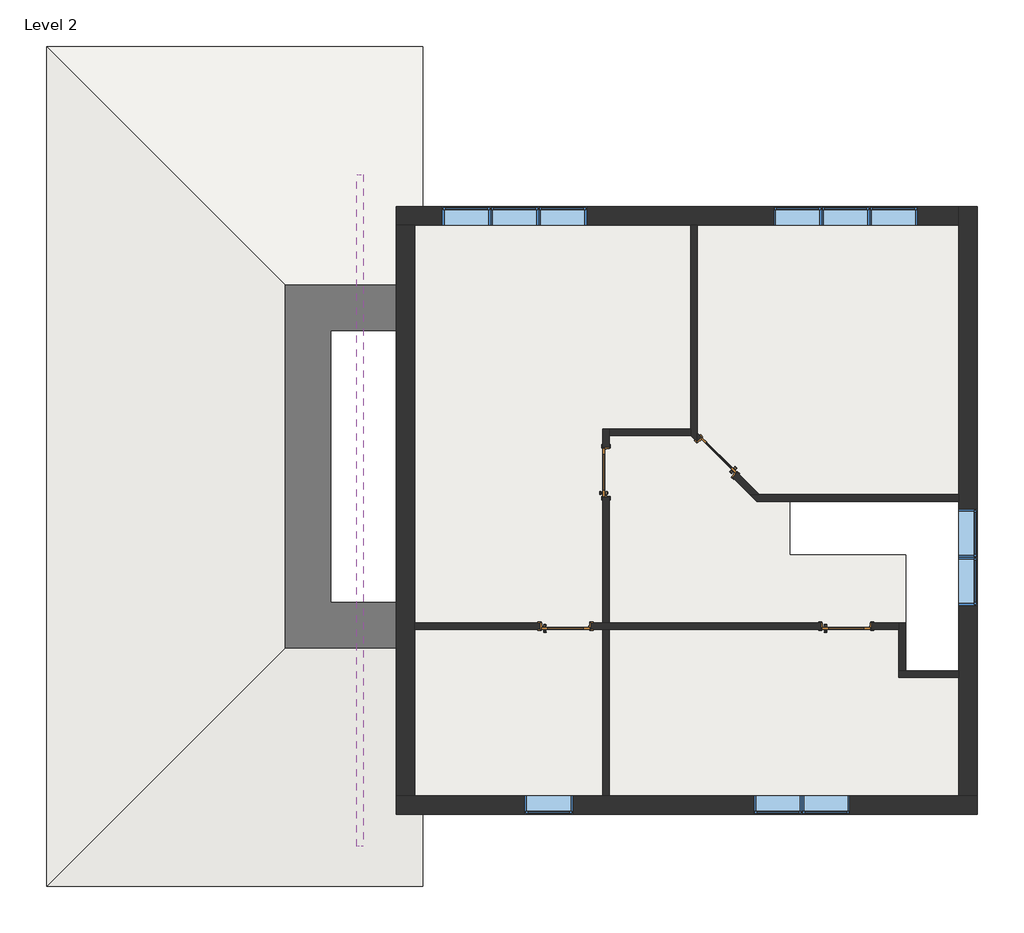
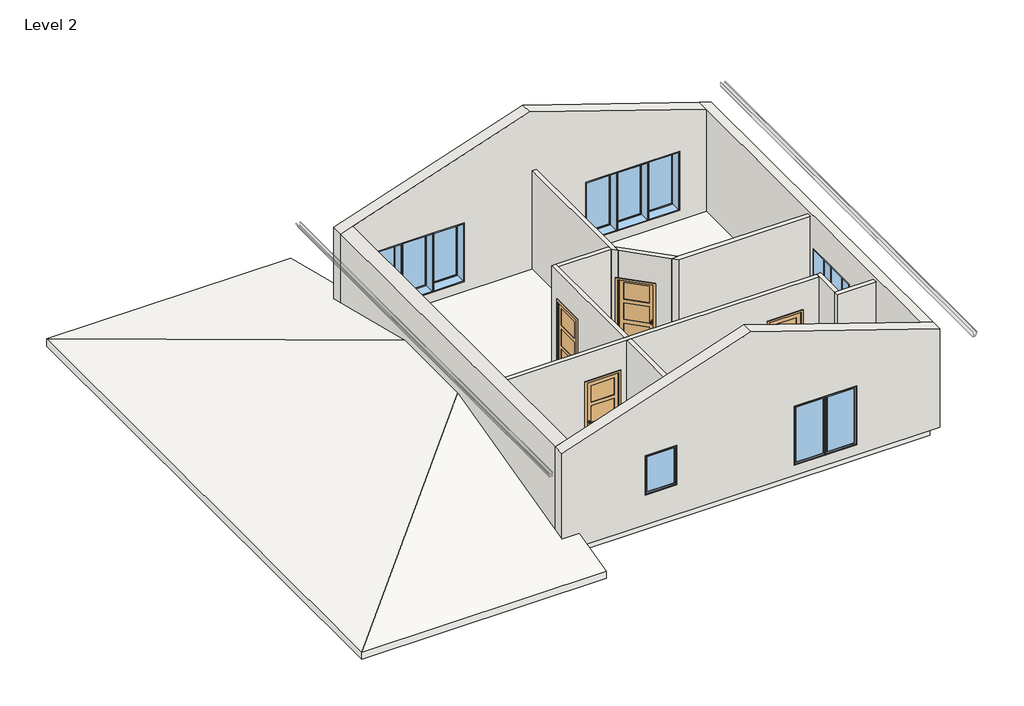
# One storey, incomplete: 12 walls, 11 windows, 4 doors, 1 beam, 1 pipe segment, 1 roof, 1 slab.
"""IFC4 building model written with IfcOpenShell, lengths in millimetres."""

from ifc_helpers import new_model, si_unit, frame, origin, place, context, project, spatial, polyline, outline, extrude, faceted_brep, transform, mapped, element, save
from components import w_shapes_w12x40_cbf18cdb, door_074fb280, door_78a51fc2, window_15c49d37, window_145f8bd4, window_9c0dbd08

model = new_model("IFC4")

# Units and contexts
model_context = context("Model", 3, world=origin())
ifc_project = project(units=[si_unit("LENGTHUNIT", "METRE", prefix="MILLI")], contexts=[model_context])

# Site, building, storey
site = spatial("IfcSite", under=ifc_project)
building = spatial("IfcBuilding", under=site)
storey = spatial("IfcBuildingStorey", under=building, Name="Level 2", Elevation=3048.0)

# Beam
placement = place(None, origin())
w_shapes_w12x40_shape = w_shapes_w12x40_cbf18cdb(model_context)
element("IfcBeam", 1, ObjectType="W Shapes : W12X40", at=placement, inside=storey, context=model_context, shape_type="MappedRepresentation", body=[
    mapped(w_shapes_w12x40_shape, transform((-2721.6271335, -19.4979882, 2896.87), x_axis=(0.0, -1.0, 0.0), y_axis=(1.0, 0.0, 0.0), z_axis=(0.0, 0.0, 1.0))),
])

# Doors
door_shape = door_074fb280(model_context)
element("IfcDoor", 2, ObjectType="Door-Interior-Single-3_Panel_Vert-Wood : 36\" x 84\"", at=placement, inside=storey, context=model_context, shape_type="MappedRepresentation", body=[
    mapped(door_shape, transform((1096.3103665, 791.0949196, 3048.0), x_axis=(0.0, 1.0, 0.0), y_axis=(-1.0, 0.0, 0.0), z_axis=(0.0, 0.0, 1.0))),
])
door_2_shape = door_78a51fc2(model_context)
element("IfcDoor", 3, ObjectType="Door-Interior-Single-3_Panel_Vert-Wood : 36\" x 84\"", at=placement, inside=storey, context=model_context, shape_type="MappedRepresentation", body=[
    mapped(door_2_shape, transform((3213.430546, 1082.8424294, 3048.0), x_axis=(-0.7071067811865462, 0.7071067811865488, 0.0), y_axis=(-0.7071067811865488, -0.7071067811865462, 0.0), z_axis=(0.0, 0.0, 1.0))),
])
element("IfcDoor", 4, ObjectType="Door-Interior-Single-3_Panel_Vert-Wood : 36\" x 84\"", at=placement, inside=storey, context=model_context, shape_type="MappedRepresentation", body=[
    mapped(door_2_shape, transform((5671.4853665, -2141.1917382, 3048.0), x_axis=(1.0, 0.0, 0.0), y_axis=(0.0, 1.0, 0.0), z_axis=(0.0, 0.0, 1.0))),
])
element("IfcDoor", 5, ObjectType="Door-Interior-Single-3_Panel_Vert-Wood : 36\" x 84\"", at=placement, inside=storey, context=model_context, shape_type="MappedRepresentation", body=[
    mapped(door_2_shape, transform((326.3728665, -2141.1917382, 3048.0), x_axis=(1.0, 0.0, 0.0), y_axis=(0.0, 1.0, 0.0), z_axis=(0.0, 0.0, 1.0))),
])

# Pipe segment
element("IfcPipeSegment", 6, ObjectType="Gutter - Bevel 5\" x 5\"", at=placement, inside=storey, context=model_context, shape_type="SweptSolid", body=[
    extrude(outline(polyline([(5990.1196059, -3526.4896335), (6117.0318384, -3526.4896335), (6117.0318384, -3529.6646335), (5993.2946059, -3529.6646335), (5993.2946059, -3600.3273362), (6094.8068384, -3638.4273362), (6094.8068384, -3650.3146335), (6101.1568384, -3650.3146335), (6101.1568384, -3640.7896335), (6104.3318384, -3640.7896335), (6104.3318384, -3653.4896335), (6091.6318384, -3653.4896335), (6091.6318384, -3640.7896335), (5990.1196059, -3602.6896335), (5990.1196059, -3526.4896335)])), frame((0.0, -6338.5417382, 0.0), z_axis=(0.0, 1.0, 0.0), x_axis=(0.0, 0.0, 1.0)), (0.0, 0.0, 1.0), 12803.1875),
    extrude(outline(polyline([(5990.1196059, 8798.8603665), (5990.1196059, 8875.0603665), (6091.6318384, 8913.1603665), (6091.6318384, 8925.8603665), (6104.3318384, 8925.8603665), (6104.3318384, 8913.1603665), (6101.1568384, 8913.1603665), (6101.1568384, 8922.6853665), (6094.8068384, 8922.6853665), (6094.8068384, 8910.7980692), (5993.2946059, 8872.6980692), (5993.2946059, 8802.0353665), (6117.0318384, 8802.0353665), (6117.0318384, 8798.8603665), (5990.1196059, 8798.8603665)])), frame((0.0, -6338.5417382, 0.0), z_axis=(0.0, 1.0, 0.0), x_axis=(0.0, 0.0, 1.0)), (0.0, 0.0, 1.0), 12803.1875),
])

# Roof
element("IfcRoof", 7, ObjectType="Wood Rafter 8\" - Asphalt Shingle - Insulated", at=placement, inside=storey, context=model_context, shape_type="Brep", body=[
    faceted_brep([(-9555.8146335, 8903.0457618, 2895.6), (-2897.8396335, 2245.0707618, 4560.09375), (-2897.8396335, -440.9792382, 4560.09375), (-9555.8146335, -7098.9542382, 2895.6), (-2393.0146335, 8903.0457618, 2895.6), (-2393.0146335, 5502.6207618, 3745.70625), (-2897.8396335, 5502.6207618, 3745.70625), (-2897.8396335, -5376.5167382, 3326.209375), (-2393.0146335, -5376.5167382, 3326.209375), (-2393.0146335, -7098.9542382, 2895.6), (-9555.8146335, 8903.0457618, 3114.8719111), (-9555.8146335, -7098.9542382, 3114.8719111), (-2897.8396335, -440.9792382, 4779.3656611), (-2897.8396335, 2245.0707618, 4779.3656611), (-2393.0146335, 8903.0457618, 3114.8719111), (-2897.8396335, 5502.6207618, 3964.9781611), (-2393.0146335, 5502.6207618, 3964.9781611), (-2393.0146335, -7098.9542382, 3114.8719111), (-2393.0146335, -5376.5167382, 3545.4812861), (-2897.8396335, -5376.5167382, 3545.4812861)], [[[0, 1, 2, 3]], [[0, 4, 5, 6, 1]], [[2, 7, 8, 9, 3]], [[10, 11, 12, 13]], [[14, 10, 13, 15, 16]], [[17, 18, 19, 12, 11]], [[0, 10, 14, 4]], [[3, 11, 10, 0]], [[9, 17, 11, 3]], [[18, 17, 9, 8]], [[14, 16, 5, 4]], [[15, 13, 12, 19, 7, 2, 1, 6]], [[18, 8, 7, 19]], [[5, 16, 15, 6]]]),
])

# Slab
element("IfcSlab", 8, ObjectType="Generic - 12\"", at=placement, inside=storey, context=model_context, shape_type="Brep", body=[
    faceted_brep([(-2770.8396335, -5541.6167382, 2743.2), (-2770.8396335, 5667.7207618, 2743.2), (-2545.4146335, 5667.7207618, 2743.2), (7982.8853665, 5667.7207618, 2743.2), (7982.8853665, 5502.6207618, 2743.2), (7982.8853665, 236.8832618, 2743.2), (7817.7853665, 236.8832618, 2743.2), (4591.9853665, 236.8832618, 2743.2), (4591.9853665, -779.1167382, 2743.2), (6801.7853665, -779.1167382, 2743.2), (6801.7853665, -2988.9167382, 2743.2), (7817.7853665, -2988.9167382, 2743.2), (7982.8853665, -2988.9167382, 2743.2), (7982.8853665, -5541.6167382, 2743.2), (7817.7853665, -5541.6167382, 2743.2), (-2545.4146335, -5541.6167382, 2743.2), (-2770.8396335, -5541.6167382, 3048.0), (-2545.4146335, -5541.6167382, 3048.0), (7817.7853665, -5541.6167382, 3048.0), (7982.8853665, -5541.6167382, 3048.0), (7982.8853665, -2988.9167382, 3048.0), (7817.7853665, -2988.9167382, 3048.0), (6801.7853665, -2988.9167382, 3048.0), (6801.7853665, -779.1167382, 3048.0), (4591.9853665, -779.1167382, 3048.0), (4591.9853665, 236.8832618, 3048.0), (7817.7853665, 236.8832618, 3048.0), (7982.8853665, 236.8832618, 3048.0), (7982.8853665, 5502.6207618, 3048.0), (7982.8853665, 5667.7207618, 3048.0), (-2545.4146335, 5667.7207618, 3048.0), (-2770.8396335, 5667.7207618, 3048.0)], [[[0, 1, 2, 3, 4, 5, 6, 7, 8, 9, 10, 11, 12, 13, 14, 15]], [[16, 17, 18, 19, 20, 21, 22, 23, 24, 25, 26, 27, 28, 29, 30, 31]], [[1, 0, 16, 31]], [[3, 2, 1, 31, 30, 29]], [[5, 4, 3, 29, 28, 27]], [[0, 15, 14, 13, 19, 18, 17, 16]], [[13, 12, 20, 19]], [[7, 6, 5, 27, 26, 25]], [[8, 7, 25, 24]], [[9, 8, 24, 23]], [[10, 9, 23, 22]], [[12, 11, 10, 22, 21, 20]]]),
])

# Walls
element("IfcWall", 9, ObjectType="Exterior - Timber Siding on Mtl. Stud", at=placement, inside=storey, context=model_context, shape_type="Brep", body=[
    faceted_brep([(-2897.8396335, 5502.6207618, 3048.0), (-2897.8396335, -5376.5167382, 3048.0), (-2897.8396335, -5376.5167382, 3326.209375), (-2897.8396335, -5376.5167382, 6096.0), (-2897.8396335, 5502.6207618, 6096.0), (-2897.8396335, 5502.6207618, 3745.70625), (-2545.4146335, 5502.6207618, 3048.0), (-2545.4146335, 5502.6207618, 3745.70625), (-2545.4146335, 5502.6207618, 6213.475), (-2545.4146335, -5376.5167382, 6213.475), (-2545.4146335, -5376.5167382, 3326.209375), (-2545.4146335, -5376.5167382, 3048.0), (-2545.4146335, -2201.5167382, 3048.0), (-2545.4146335, -2074.5167382, 3048.0), (-2774.0146335, 5502.6207618, 3048.0), (-2774.0146335, -5376.5167382, 3048.0)], [[[0, 1, 2, 3, 4, 5]], [[6, 7, 8, 9, 10, 11, 12, 13]], [[1, 0, 14, 6, 13, 12, 11, 15]], [[3, 2, 1, 15, 11, 10, 9]], [[4, 3, 9, 8]], [[0, 5, 4, 8, 7, 6, 14]]]),
])
element("IfcWall", 10, ObjectType="Exterior - Timber Siding on Mtl. Stud", at=placement, inside=storey, context=model_context, shape_type="Brep", body=[
    faceted_brep([(-2897.8396335, 5502.6207618, 3048.0), (-2545.4146335, 5502.6207618, 3048.0), (2712.3853665, 5502.6207618, 3048.0), (2839.3853665, 5502.6207618, 3048.0), (7817.7853665, 5502.6207618, 3048.0), (7817.7853665, 5502.6207618, 6213.475), (2636.1853665, 5502.6207618, 7940.675), (-2545.4146335, 5502.6207618, 6213.475), (-2897.8396335, 5502.6207618, 6096.0), (726.6324069, 5502.6207618, 5181.6), (726.6324069, 5502.6207618, 3352.8), (-2016.5675931, 5502.6207618, 3352.8), (-2016.5675931, 5502.6207618, 5181.6), (4287.5826836, 5502.6207618, 5181.6), (7030.7826836, 5502.6207618, 5181.6), (7030.7826836, 5502.6207618, 3352.8), (4287.5826836, 5502.6207618, 3352.8), (7817.7853665, 5855.0457618, 3048.0), (-2897.8396335, 5855.0457618, 3048.0), (-2897.8396335, 5855.0457618, 6096.0), (2636.1853665, 5855.0457618, 7940.675), (7817.7853665, 5855.0457618, 6213.475), (726.6324069, 5855.0457618, 3352.8), (726.6324069, 5855.0457618, 5181.6), (-2016.5675931, 5855.0457618, 5181.6), (-2016.5675931, 5855.0457618, 3352.8), (4287.5826836, 5855.0457618, 3352.8), (7030.7826836, 5855.0457618, 3352.8), (7030.7826836, 5855.0457618, 5181.6), (4287.5826836, 5855.0457618, 5181.6)], [[[0, 1, 2, 3, 4, 5, 6, 7, 8], [9, 10, 11, 12], [13, 14, 15, 16]], [[17, 18, 19, 20, 21], [22, 23, 24, 25], [26, 27, 28, 29]], [[4, 3, 2, 1, 0, 18, 17]], [[23, 9, 12, 24]], [[23, 22, 10, 9]], [[10, 22, 25, 11]], [[28, 14, 13, 29]], [[15, 27, 26, 16]], [[25, 24, 12, 11]], [[8, 7, 6, 20, 19]], [[6, 5, 21, 20]], [[27, 15, 14, 28]], [[29, 13, 16, 26]], [[5, 4, 17, 21]], [[18, 0, 8, 19]]]),
])
element("IfcWall", 11, ObjectType="Exterior - Timber Siding on Mtl. Stud", at=placement, inside=storey, context=model_context, shape_type="Brep", body=[
    faceted_brep([(7817.7853665, 5855.0457618, 3048.0), (7817.7853665, 5502.6207618, 3048.0), (7817.7853665, 363.8832618, 3048.0), (7817.7853665, 236.8832618, 3048.0), (7817.7853665, -2988.9167382, 3048.0), (7817.7853665, -3115.9167382, 3048.0), (7817.7853665, -5376.5167382, 3048.0), (7817.7853665, -5376.5167382, 6213.475), (7817.7853665, 5502.6207618, 6213.475), (7817.7853665, 5855.0457618, 6213.475), (7817.7853665, -1742.7292382, 3352.8), (7817.7853665, 86.0707618, 3352.8), (7817.7853665, 86.0707618, 5181.6), (7817.7853665, -1742.7292382, 5181.6), (8170.2103665, -5376.5167382, 3048.0), (8170.2103665, 5502.6207618, 3048.0), (8170.2103665, 5855.0457618, 3048.0), (8170.2103665, 5855.0457618, 6096.0), (8170.2103665, -5376.5167382, 6096.0), (8170.2103665, 86.0707618, 3352.8), (8170.2103665, -1742.7292382, 3352.8), (8170.2103665, -1742.7292382, 5181.6), (8170.2103665, 86.0707618, 5181.6)], [[[0, 1, 2, 3, 4, 5, 6, 7, 8, 9], [10, 11, 12, 13]], [[14, 15, 16, 17, 18], [19, 20, 21, 22]], [[6, 5, 4, 3, 2, 1, 0, 16, 15, 14]], [[10, 20, 19, 11]], [[12, 11, 19, 22]], [[12, 22, 21, 13]], [[13, 21, 20, 10]], [[16, 0, 9, 17]], [[7, 6, 14, 18]], [[9, 8, 7, 18, 17]]]),
])
element("IfcWall", 12, ObjectType="Exterior - Timber Siding on Mtl. Stud", at=placement, inside=storey, context=model_context, shape_type="Brep", body=[
    faceted_brep([(-2545.4146335, -5728.9417382, 3048.0), (8170.2103665, -5728.9417382, 3048.0), (8170.2103665, -5728.9417382, 6096.0), (2636.1853665, -5728.9417382, 7940.675), (-2897.8396335, -5728.9417382, 6096.0), (-2897.8396335, -5728.9417382, 3326.209375), (-2545.4146335, -5728.9417382, 3326.209375), (-451.5021335, -5728.9417382, 5181.6), (462.8978665, -5728.9417382, 5181.6), (462.8978665, -5728.9417382, 3962.4), (-451.5021335, -5728.9417382, 3962.4), (3914.1228665, -5728.9417382, 5181.6), (5742.9228665, -5728.9417382, 5181.6), (5742.9228665, -5728.9417382, 3352.8), (3914.1228665, -5728.9417382, 3352.8), (8170.2103665, -5376.5167382, 3048.0), (7817.7853665, -5376.5167382, 3048.0), (1162.9853665, -5376.5167382, 3048.0), (1035.9853665, -5376.5167382, 3048.0), (-2545.4146335, -5376.5167382, 3048.0), (-2545.4146335, -5376.5167382, 3326.209375), (-2897.8396335, -5376.5167382, 3326.209375), (-2897.8396335, -5376.5167382, 6096.0), (-2545.4146335, -5376.5167382, 6213.475), (2636.1853665, -5376.5167382, 7940.675), (7817.7853665, -5376.5167382, 6213.475), (8170.2103665, -5376.5167382, 6096.0), (-451.5021335, -5376.5167382, 5181.6), (-451.5021335, -5376.5167382, 3962.4), (462.8978665, -5376.5167382, 3962.4), (462.8978665, -5376.5167382, 5181.6), (5742.9228665, -5376.5167382, 5181.6), (3914.1228665, -5376.5167382, 5181.6), (3914.1228665, -5376.5167382, 3352.8), (5742.9228665, -5376.5167382, 3352.8), (-2545.4146335, -5541.6167382, 3048.0)], [[[0, 1, 2, 3, 4, 5, 6], [7, 8, 9, 10], [11, 12, 13, 14]], [[15, 16, 17, 18, 19, 20, 21, 22, 23, 24, 25, 26], [27, 28, 29, 30], [31, 32, 33, 34]], [[1, 0, 35, 19, 18, 17, 16, 15]], [[31, 12, 11, 32]], [[33, 14, 13, 34]], [[33, 32, 11, 14]], [[27, 30, 8, 7]], [[30, 29, 9, 8]], [[29, 28, 10, 9]], [[28, 27, 7, 10]], [[4, 3, 24, 23, 22]], [[3, 2, 26, 25, 24]], [[34, 13, 12, 31]], [[2, 1, 15, 26]], [[0, 6, 20, 19, 35]], [[5, 4, 22, 21]], [[21, 20, 6, 5]]]),
])
element("IfcWall", 13, ObjectType="Interior - 5\" Partition (2-hr)", at=placement, inside=storey, context=model_context, shape_type="Brep", body=[
    faceted_brep([(7817.7853665, -2988.9167382, 3048.0), (6801.7853665, -2988.9167382, 3048.0), (6674.7853665, -2988.9167382, 3048.0), (6674.7853665, -2988.9167382, 6096.0), (6801.7853665, -2988.9167382, 6096.0), (7817.7853665, -2988.9167382, 6096.0), (7817.7853665, -3115.9167382, 3048.0), (7817.7853665, -3115.9167382, 6096.0), (6674.7853665, -3115.9167382, 6096.0), (6674.7853665, -3115.9167382, 3048.0)], [[[0, 1, 2, 3, 4, 5]], [[6, 7, 8, 9]], [[2, 1, 0, 6, 9]], [[5, 4, 3, 8, 7]], [[3, 2, 9, 8]], [[0, 5, 7, 6]]]),
])
element("IfcWall", 14, ObjectType="Interior - 5\" Partition (2-hr)", at=placement, inside=storey, context=model_context, shape_type="Brep", body=[
    faceted_brep([(6801.7853665, -2988.9167382, 3048.0), (6801.7853665, -2074.5167382, 3048.0), (6801.7853665, -2074.5167382, 6096.0), (6801.7853665, -2988.9167382, 6096.0), (6674.7853665, -2988.9167382, 3048.0), (6674.7853665, -2988.9167382, 6096.0), (6674.7853665, -2201.5167382, 6096.0), (6674.7853665, -2074.5167382, 6096.0), (6674.7853665, -2074.5167382, 3048.0), (6674.7853665, -2201.5167382, 3048.0)], [[[0, 1, 2, 3]], [[4, 5, 6, 7, 8, 9]], [[1, 0, 4, 9, 8]], [[3, 2, 7, 6, 5]], [[0, 3, 5, 4]], [[2, 1, 8, 7]]]),
])
element("IfcWall", 15, ObjectType="Interior - 5\" Partition (2-hr)", at=placement, inside=storey, context=model_context, shape_type="Brep", body=[
    faceted_brep([(-2545.4146335, -2074.5167382, 6096.0), (1035.9853665, -2074.5167382, 6096.0), (1162.9853665, -2074.5167382, 6096.0), (6674.7853665, -2074.5167382, 6096.0), (6674.7853665, -2074.5167382, 3048.0), (6154.0853665, -2074.5167382, 3048.0), (6154.0853665, -2074.5167382, 5207.0), (5188.8853665, -2074.5167382, 5207.0), (5188.8853665, -2074.5167382, 3048.0), (1162.9853665, -2074.5167382, 3048.0), (1035.9853665, -2074.5167382, 3048.0), (808.9728665, -2074.5167382, 3048.0), (808.9728665, -2074.5167382, 5207.0), (-156.2271335, -2074.5167382, 5207.0), (-156.2271335, -2074.5167382, 3048.0), (-2545.4146335, -2074.5167382, 3048.0), (6674.7853665, -2201.5167382, 6096.0), (1162.9853665, -2201.5167382, 6096.0), (1035.9853665, -2201.5167382, 6096.0), (-2545.4146335, -2201.5167382, 6096.0), (-2545.4146335, -2201.5167382, 3048.0), (-156.2271335, -2201.5167382, 3048.0), (-156.2271335, -2201.5167382, 5207.0), (808.9728665, -2201.5167382, 5207.0), (808.9728665, -2201.5167382, 3048.0), (1035.9853665, -2201.5167382, 3048.0), (1162.9853665, -2201.5167382, 3048.0), (5188.8853665, -2201.5167382, 3048.0), (5188.8853665, -2201.5167382, 5207.0), (6154.0853665, -2201.5167382, 5207.0), (6154.0853665, -2201.5167382, 3048.0), (6674.7853665, -2201.5167382, 3048.0)], [[[0, 1, 2, 3, 4, 5, 6, 7, 8, 9, 10, 11, 12, 13, 14, 15]], [[16, 17, 18, 19, 20, 21, 22, 23, 24, 25, 26, 27, 28, 29, 30, 31]], [[4, 31, 30, 5]], [[20, 15, 14, 21]], [[8, 27, 26, 25, 24, 11, 10, 9]], [[3, 2, 1, 0, 19, 18, 17, 16]], [[4, 3, 16, 31]], [[0, 15, 20, 19]], [[29, 6, 5, 30]], [[6, 29, 28, 7]], [[7, 28, 27, 8]], [[23, 12, 11, 24]], [[12, 23, 22, 13]], [[13, 22, 21, 14]]]),
])
element("IfcWall", 16, ObjectType="Interior - 5\" Partition (2-hr)", at=placement, inside=storey, context=model_context, shape_type="Brep", body=[
    faceted_brep([(1035.9853665, 1616.5949196, 6096.0), (1035.9853665, 1616.5949196, 3048.0), (1035.9853665, 1273.6949196, 3048.0), (1035.9853665, 1273.6949196, 5207.0), (1035.9853665, 308.4949196, 5207.0), (1035.9853665, 308.4949196, 3048.0), (1035.9853665, -2074.5167382, 3048.0), (1035.9853665, -2074.5167382, 6096.0), (1162.9853665, 1616.5949196, 3048.0), (1162.9853665, 1616.5949196, 6096.0), (1162.9853665, 1489.5949196, 6096.0), (1162.9853665, -2074.5167382, 6096.0), (1162.9853665, -2074.5167382, 3048.0), (1162.9853665, 308.4949196, 3048.0), (1162.9853665, 308.4949196, 5207.0), (1162.9853665, 1273.6949196, 5207.0), (1162.9853665, 1273.6949196, 3048.0), (1162.9853665, 1489.5949196, 3048.0)], [[[0, 1, 2, 3, 4, 5, 6, 7]], [[8, 9, 10, 11, 12, 13, 14, 15, 16, 17]], [[1, 8, 17, 16, 2]], [[5, 13, 12, 6]], [[9, 0, 7, 11, 10]], [[1, 0, 9, 8]], [[7, 6, 12, 11]], [[15, 3, 2, 16]], [[3, 15, 14, 4]], [[4, 14, 13, 5]]]),
    faceted_brep([(1035.9853665, -5376.5167382, 3048.0), (1035.9853665, -5376.5167382, 6096.0), (1035.9853665, -2201.5167382, 6096.0), (1035.9853665, -2201.5167382, 3048.0), (1162.9853665, -5376.5167382, 6096.0), (1162.9853665, -5376.5167382, 3048.0), (1162.9853665, -2201.5167382, 3048.0), (1162.9853665, -2201.5167382, 6096.0)], [[[0, 1, 2, 3]], [[4, 5, 6, 7]], [[5, 0, 3, 6]], [[1, 4, 7, 2]], [[3, 2, 7, 6]], [[1, 0, 5, 4]]]),
])
element("IfcWall", 17, ObjectType="Interior - 5\" Partition (2-hr)", at=placement, inside=storey, context=model_context, shape_type="Brep", body=[
    faceted_brep([(7817.7853665, 363.8832618, 3048.0), (4017.7021468, 363.8832618, 3048.0), (3838.0970243, 363.8832618, 3048.0), (3838.0970243, 363.8832618, 6096.0), (4017.7021468, 363.8832618, 6096.0), (7817.7853665, 363.8832618, 6096.0), (7817.7853665, 236.8832618, 3048.0), (7817.7853665, 236.8832618, 6096.0), (3965.0970243, 236.8832618, 6096.0), (3965.0970243, 236.8832618, 3048.0)], [[[0, 1, 2, 3, 4, 5]], [[6, 7, 8, 9]], [[2, 1, 0, 6, 9]], [[5, 4, 3, 8, 7]], [[3, 2, 9, 8]], [[0, 5, 7, 6]]]),
])
element("IfcWall", 18, ObjectType="Interior - 5\" Partition (2-hr)", at=placement, inside=storey, context=model_context, shape_type="Brep", body=[
    faceted_brep([(2839.3853665, 5502.6207618, 6096.0), (2839.3853665, 1542.200042, 6096.0), (2839.3853665, 1362.5949196, 6096.0), (2839.3853665, 1362.5949196, 5207.0), (2839.3853665, 1391.2967151, 5207.0), (2839.3853665, 1391.2967151, 3048.0), (2839.3853665, 1542.200042, 3048.0), (2839.3853665, 5502.6207618, 3048.0), (2712.3853665, 5502.6207618, 3048.0), (2712.3853665, 1616.5949196, 3048.0), (2712.3853665, 1489.5949196, 3048.0), (2712.3853665, 1489.5949196, 6096.0), (2712.3853665, 1616.5949196, 6096.0), (2712.3853665, 5502.6207618, 6096.0), (2825.0344687, 1376.9458174, 3048.0), (2825.0344687, 1376.9458174, 5207.0)], [[[0, 1, 2, 3, 4, 5, 6, 7]], [[8, 9, 10, 11, 12, 13]], [[10, 9, 8, 7, 6, 5, 14]], [[2, 1, 0, 13, 12, 11]], [[0, 7, 8, 13]], [[2, 11, 10, 14, 15, 3]], [[4, 15, 14, 5]], [[15, 4, 3]]]),
])
element("IfcWall", 19, ObjectType="Interior - 5\" Partition (2-hr)", at=placement, inside=storey, context=model_context, shape_type="SweptSolid", body=[
    extrude(outline(polyline([(1162.9853665, 1616.5949196), (2712.3853665, 1616.5949196), (2712.3853665, 1489.5949196), (1162.9853665, 1489.5949196), (1162.9853665, 1616.5949196)])), frame((0.0, 0.0, 3048.0), z_axis=(0.0, 0.0, 1.0), x_axis=(1.0, 0.0, 0.0)), (0.0, 0.0, 1.0), 3048.0),
])
element("IfcWall", 20, ObjectType="Interior - 5\" Partition (2-hr)", at=placement, inside=storey, context=model_context, shape_type="Brep", body=[
    faceted_brep([(3838.0970243, 363.8832618, 6096.0), (2839.3853665, 1362.5949196, 6096.0), (2839.3853665, 1362.5949196, 5207.0), (3507.5339339, 694.4463522, 5207.0), (3507.5339339, 694.4463522, 3048.0), (3838.0970243, 363.8832618, 3048.0), (2839.3853665, 1542.200042, 6096.0), (4017.7021468, 363.8832618, 6096.0), (4017.7021468, 363.8832618, 3048.0), (3597.3364951, 784.2489134, 3048.0), (3597.3364951, 784.2489134, 5207.0), (2914.8370299, 1466.7483786, 5207.0), (2914.8370299, 1466.7483786, 3048.0), (2839.3853665, 1542.200042, 3048.0), (2839.3853665, 1391.2967151, 3048.0), (2839.3853665, 1391.2967151, 5207.0)], [[[0, 1, 2, 3, 4, 5]], [[6, 7, 8, 9, 10, 11, 12, 13]], [[8, 5, 4, 9]], [[13, 12, 14]], [[1, 0, 7, 6]], [[1, 6, 13, 14, 15, 2]], [[0, 5, 8, 7]], [[11, 15, 14, 12]], [[15, 11, 10, 3, 2]], [[3, 10, 9, 4]]]),
])

# Windows
window_shape = window_15c49d37(model_context)
element("IfcWindow", 21, ObjectType="Fixed : 36\" x 48\"", at=placement, inside=storey, context=model_context, shape_type="MappedRepresentation", body=[
    mapped(window_shape, transform((-32.4021335, -5552.7292382, 3048.0), x_axis=(-1.0, 0.0, 0.0), y_axis=(0.0, -1.0, 0.0), z_axis=(0.0, 0.0, 1.0))),
])
window_2_shape = window_145f8bd4(model_context)
element("IfcWindow", 22, ObjectType="Fixed : 36\" x 72\"", at=placement, inside=storey, context=model_context, shape_type="MappedRepresentation", body=[
    mapped(window_2_shape, transform((4333.2228665, -5552.7292382, 3048.0), x_axis=(-1.0, 0.0, 0.0), y_axis=(0.0, -1.0, 0.0), z_axis=(0.0, 0.0, 1.0))),
])
element("IfcWindow", 23, ObjectType="Fixed : 36\" x 72\"", at=placement, inside=storey, context=model_context, shape_type="MappedRepresentation", body=[
    mapped(window_2_shape, transform((5247.6228665, -5552.7292382, 3048.0), x_axis=(-1.0, 0.0, 0.0), y_axis=(0.0, -1.0, 0.0), z_axis=(0.0, 0.0, 1.0))),
])
element("IfcWindow", 24, ObjectType="Fixed : 36\" x 72\"", at=placement, inside=storey, context=model_context, shape_type="MappedRepresentation", body=[
    mapped(window_2_shape, transform((7993.9978665, -409.2292382, 3048.0), x_axis=(0.0, -1.0, 0.0), y_axis=(1.0, 0.0, 0.0), z_axis=(0.0, 0.0, 1.0))),
])
element("IfcWindow", 25, ObjectType="Fixed : 36\" x 72\"", at=placement, inside=storey, context=model_context, shape_type="MappedRepresentation", body=[
    mapped(window_2_shape, transform((7993.9978665, -1323.6292382, 3048.0), x_axis=(0.0, -1.0, 0.0), y_axis=(1.0, 0.0, 0.0), z_axis=(0.0, 0.0, 1.0))),
])
window_3_shape = window_9c0dbd08(model_context)
element("IfcWindow", 26, ObjectType="Fixed : 36\" x 72\"", at=placement, inside=storey, context=model_context, shape_type="MappedRepresentation", body=[
    mapped(window_3_shape, transform((4706.6826836, 5678.8332618, 3048.0), x_axis=(-1.0, 0.0, 0.0), y_axis=(0.0, -1.0, 0.0), z_axis=(0.0, 0.0, 1.0))),
])
element("IfcWindow", 27, ObjectType="Fixed : 36\" x 72\"", at=placement, inside=storey, context=model_context, shape_type="MappedRepresentation", body=[
    mapped(window_3_shape, transform((5621.0826836, 5678.8332618, 3048.0), x_axis=(-1.0, 0.0, 0.0), y_axis=(0.0, -1.0, 0.0), z_axis=(0.0, 0.0, 1.0))),
])
element("IfcWindow", 28, ObjectType="Fixed : 36\" x 72\"", at=placement, inside=storey, context=model_context, shape_type="MappedRepresentation", body=[
    mapped(window_3_shape, transform((6535.4826836, 5678.8332618, 3048.0), x_axis=(-1.0, 0.0, 0.0), y_axis=(0.0, -1.0, 0.0), z_axis=(0.0, 0.0, 1.0))),
])
element("IfcWindow", 29, ObjectType="Fixed : 36\" x 72\"", at=placement, inside=storey, context=model_context, shape_type="MappedRepresentation", body=[
    mapped(window_3_shape, transform((-683.0675931, 5678.8332618, 3048.0), x_axis=(-1.0, 0.0, 0.0), y_axis=(0.0, -1.0, 0.0), z_axis=(0.0, 0.0, 1.0))),
])
element("IfcWindow", 30, ObjectType="Fixed : 36\" x 72\"", at=placement, inside=storey, context=model_context, shape_type="MappedRepresentation", body=[
    mapped(window_3_shape, transform((231.3324069, 5678.8332618, 3048.0), x_axis=(-1.0, 0.0, 0.0), y_axis=(0.0, -1.0, 0.0), z_axis=(0.0, 0.0, 1.0))),
])
element("IfcWindow", 31, ObjectType="Fixed : 36\" x 72\"", at=placement, inside=storey, context=model_context, shape_type="MappedRepresentation", body=[
    mapped(window_3_shape, transform((-1597.4675931, 5678.8332618, 3048.0), x_axis=(-1.0, 0.0, 0.0), y_axis=(0.0, -1.0, 0.0), z_axis=(0.0, 0.0, 1.0))),
])

save(model, "model.ifc")
